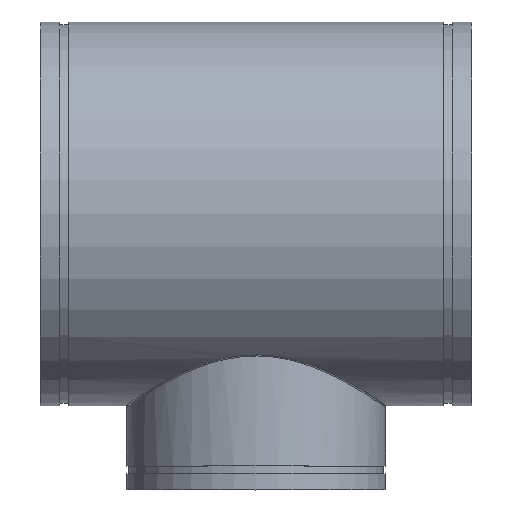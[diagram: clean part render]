
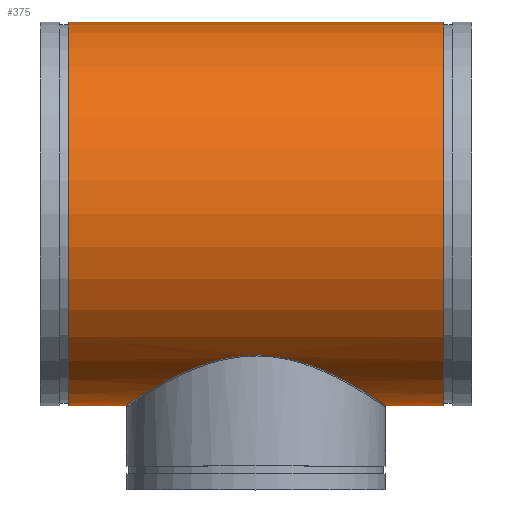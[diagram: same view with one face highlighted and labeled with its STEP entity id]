
A CAD part, top view. The second image highlights one B-rep face of the part: STEP entity #375.
In plain terms, the highlighted cylindrical face has radius 406.4 mm (diameter 812.8 mm), a full revolution.
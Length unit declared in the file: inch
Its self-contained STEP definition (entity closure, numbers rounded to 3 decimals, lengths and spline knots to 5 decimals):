
#54=FACE_BOUND('',#119,.T.);
#65=LINE('',#896,#76);
#76=VECTOR('',#483,16.);
#87=CYLINDRICAL_SURFACE('',#415,16.);
#98=FACE_OUTER_BOUND('',#118,.T.);
#118=EDGE_LOOP('',(#266,#267,#268,#269));
#119=EDGE_LOOP('',(#270));
#150=B_SPLINE_CURVE_WITH_KNOTS('',3,(#853,#854,#855,#856,#857,#858,#859,
#860,#861,#862,#863,#864,#865,#866,#867,#868,#869,#870,#871,#872,#873,#874,
#875,#876,#877,#878,#879,#880,#881,#882,#883,#884,#885,#886,#887,#888,#889,
#890,#891),.UNSPECIFIED.,.T.,.F.,(4,1,1,1,1,1,1,1,1,1,1,1,1,1,1,1,1,1,1,
1,1,1,1,1,1,1,1,1,1,1,1,1,1,1,1,1,4),(-172.4462,-169.3668,
-166.2874,-160.12861,-153.96982,-147.81102,
-141.65223,-135.49344,-130.87434,-129.33465,
-123.17585,-119.06999,-114.96413,-106.75241,-102.64654,
-98.54068,-94.43482,-90.32896,-86.2231,
-82.11724,-78.01137,-73.90551,-67.74672,
-65.69379,-57.48207,-53.3762,-49.27034,
-45.16448,-41.05862,-36.95276,-32.84689,
-24.63517,-18.47638,-12.31759,-6.15879,-3.0794,
0.),.UNSPECIFIED.);
#154=CIRCLE('',#416,16.);
#155=CIRCLE('',#417,16.);
#182=VERTEX_POINT('',#806);
#185=VERTEX_POINT('',#893);
#186=VERTEX_POINT('',#895);
#219=EDGE_CURVE('',#182,#182,#150,.T.);
#220=EDGE_CURVE('',#185,#185,#154,.T.);
#221=EDGE_CURVE('',#185,#186,#65,.T.);
#222=EDGE_CURVE('',#186,#186,#155,.T.);
#266=ORIENTED_EDGE('',*,*,#220,.T.);
#267=ORIENTED_EDGE('',*,*,#221,.T.);
#268=ORIENTED_EDGE('',*,*,#222,.T.);
#269=ORIENTED_EDGE('',*,*,#221,.F.);
#270=ORIENTED_EDGE('',*,*,#219,.F.);
#375=ADVANCED_FACE('',(#98,#54),#87,.T.);
#415=AXIS2_PLACEMENT_3D('',#892,#479,#480);
#416=AXIS2_PLACEMENT_3D('',#894,#481,#482);
#417=AXIS2_PLACEMENT_3D('',#897,#484,#485);
#479=DIRECTION('center_axis',(-1.,0.,0.));
#480=DIRECTION('ref_axis',(0.,-1.,0.));
#481=DIRECTION('center_axis',(1.,0.,0.));
#482=DIRECTION('ref_axis',(0.,-1.,0.));
#483=DIRECTION('',(1.,0.,0.));
#484=DIRECTION('center_axis',(-1.,0.,0.));
#485=DIRECTION('ref_axis',(0.,-1.,0.));
#806=CARTESIAN_POINT('',(0.,-11.76808,-10.84031));
#853=CARTESIAN_POINT('Ctrl Pts',(0.,-11.76808,
-10.84031));
#854=CARTESIAN_POINT('Ctrl Pts',(0.42375,-11.76808,-10.84031));
#855=CARTESIAN_POINT('Ctrl Pts',(1.27087,-11.81364,-10.79119));
#856=CARTESIAN_POINT('Ctrl Pts',(2.92554,-12.07502,-10.50181));
#857=CARTESIAN_POINT('Ctrl Pts',(4.85417,-12.66389,-9.80928));
#858=CARTESIAN_POINT('Ctrl Pts',(6.86866,-13.56884,-8.53809));
#859=CARTESIAN_POINT('Ctrl Pts',(8.55773,-14.49514,-6.87625));
#860=CARTESIAN_POINT('Ctrl Pts',(9.87106,-15.30362,-4.85371));
#861=CARTESIAN_POINT('Ctrl Pts',(10.65408,-15.81795,-2.71642));
#862=CARTESIAN_POINT('Ctrl Pts',(10.90022,-15.98333,-1.0512));
#863=CARTESIAN_POINT('Ctrl Pts',(10.95004,-16.01691,0.63073));
#864=CARTESIAN_POINT('Ctrl Pts',(10.75845,-15.88739,2.24174));
#865=CARTESIAN_POINT('Ctrl Pts',(10.16636,-15.49733,4.08029));
#866=CARTESIAN_POINT('Ctrl Pts',(9.19744,-14.8829,6.01992));
#867=CARTESIAN_POINT('Ctrl Pts',(7.84981,-14.0853,7.66493));
#868=CARTESIAN_POINT('Ctrl Pts',(6.20306,-13.26386,8.9695));
#869=CARTESIAN_POINT('Ctrl Pts',(4.82601,-12.68213,9.76876));
#870=CARTESIAN_POINT('Ctrl Pts',(3.31774,-12.18916,10.37122));
#871=CARTESIAN_POINT('Ctrl Pts',(1.6948,-11.84979,10.75259));
#872=CARTESIAN_POINT('Ctrl Pts',(0.00002,-11.72708,
10.88423));
#873=CARTESIAN_POINT('Ctrl Pts',(-1.6947,-11.84979,10.75259));
#874=CARTESIAN_POINT('Ctrl Pts',(-3.31768,-12.18908,10.3713));
#875=CARTESIAN_POINT('Ctrl Pts',(-5.0774,-12.76447,9.66821));
#876=CARTESIAN_POINT('Ctrl Pts',(-6.42137,-13.36766,8.82041));
#877=CARTESIAN_POINT('Ctrl Pts',(-8.01825,-14.18488,7.45951));
#878=CARTESIAN_POINT('Ctrl Pts',(-9.19737,-14.8829,6.01977));
#879=CARTESIAN_POINT('Ctrl Pts',(-10.16646,-15.49738,4.08045));
#880=CARTESIAN_POINT('Ctrl Pts',(-10.67356,-15.83141,2.50423));
#881=CARTESIAN_POINT('Ctrl Pts',(-10.93601,-16.00724,0.84476));
#882=CARTESIAN_POINT('Ctrl Pts',(-10.93578,-16.00738,-0.84486));
#883=CARTESIAN_POINT('Ctrl Pts',(-10.67387,-15.83125,-2.50386));
#884=CARTESIAN_POINT('Ctrl Pts',(-9.99662,-15.38645,-4.60697));
#885=CARTESIAN_POINT('Ctrl Pts',(-8.74513,-14.59828,-6.69257));
#886=CARTESIAN_POINT('Ctrl Pts',(-6.86881,-13.56874,-8.53762));
#887=CARTESIAN_POINT('Ctrl Pts',(-4.85417,-12.66398,-9.8095));
#888=CARTESIAN_POINT('Ctrl Pts',(-2.92553,-12.07497,-10.50171));
#889=CARTESIAN_POINT('Ctrl Pts',(-1.27087,-11.81366,-10.79124));
#890=CARTESIAN_POINT('Ctrl Pts',(-0.42375,-11.76808,-10.84031));
#891=CARTESIAN_POINT('Ctrl Pts',(0.,-11.76808,
-10.84031));
#892=CARTESIAN_POINT('Origin',(18.,0.,0.));
#893=CARTESIAN_POINT('',(-15.625,16.,0.));
#894=CARTESIAN_POINT('Origin',(-15.625,0.,0.));
#895=CARTESIAN_POINT('',(15.625,16.,0.));
#896=CARTESIAN_POINT('',(18.,16.,0.));
#897=CARTESIAN_POINT('Origin',(15.625,0.,0.));
